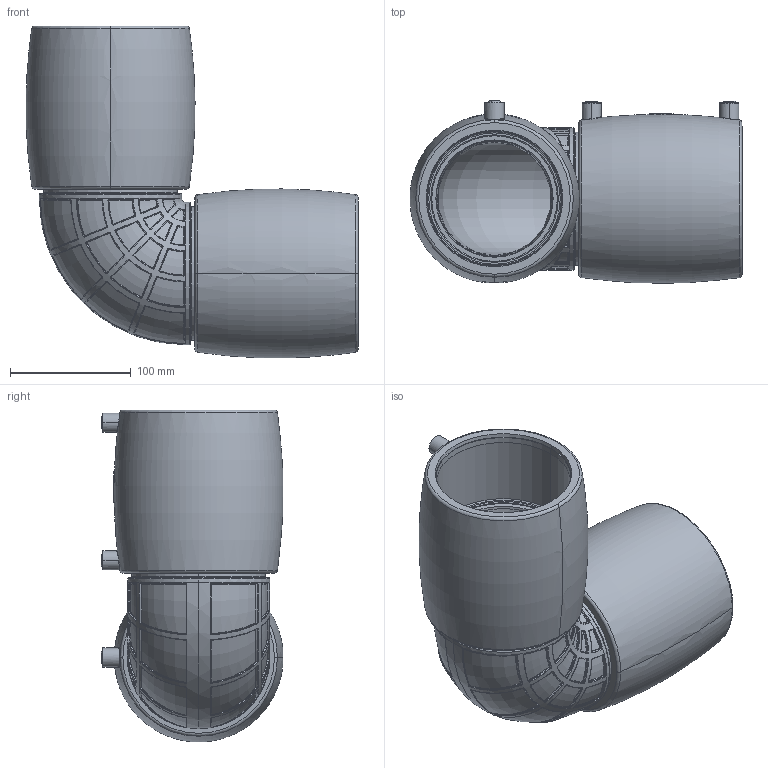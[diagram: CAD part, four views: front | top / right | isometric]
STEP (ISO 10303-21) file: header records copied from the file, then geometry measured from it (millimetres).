
FILE_DESCRIPTION (( 'STEP AP214' ), '1' );
FILE_NAME ('KP_23-110EC.STEP', '2025-05-21T09:06:41', ( '' ), ( '' ), 'SwSTEP 2.0', 'SolidWorks 2023', '' );
FILE_SCHEMA (( 'AUTOMOTIVE_DESIGN' ));
Length unit declared in the file: millimetre
Products named in the file (1): KP_23-110EC
Bounding box: 274.88 x 150.61 x 274.88 mm (x, y, z)
Volume: 2130305.6 mm3; surface area: 404370.9 mm2
Topology: 1 solids, 5 shells, 2477 faces, 6027 edges, 3749 vertices
Faces by surface type: bspline 904, plane 807, torus 340, cylinder 326, cone 92, sphere 8
Entity records: 112737 total; most frequent: CARTESIAN_POINT 62477, ORIENTED_EDGE 12016, DIRECTION 7930, EDGE_CURVE 6008, VERTEX_POINT 3742, AXIS2_PLACEMENT_3D 3096, B_SPLINE_CURVE_WITH_KNOTS 2729, EDGE_LOOP 2680
